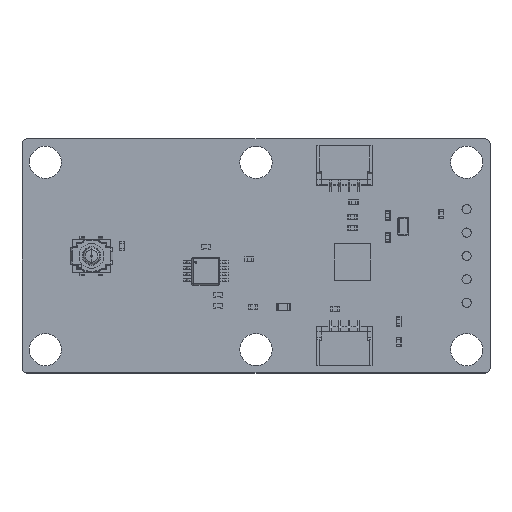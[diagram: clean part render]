
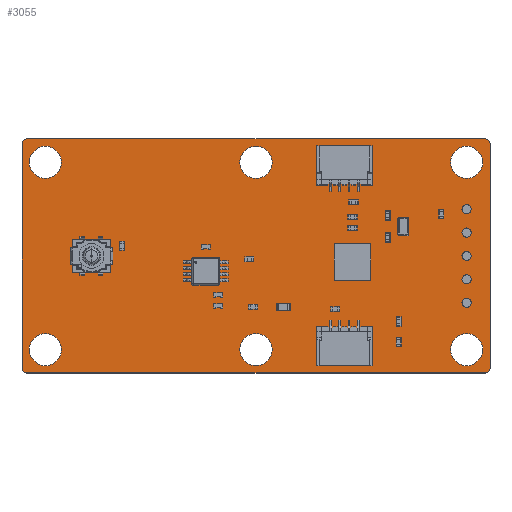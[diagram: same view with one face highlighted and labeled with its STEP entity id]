
A CAD part, top view. The second image highlights one B-rep face of the part: STEP entity #3055.
In plain terms, the highlighted planar face has unit normal (0, 0, 1).
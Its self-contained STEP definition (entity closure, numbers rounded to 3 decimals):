
#3055=ADVANCED_FACE('',(#7179,#7180,#7181,#7182,#7183,#7184,#7185,#7186,#7187,#7188,#7189,#7190),#7191,.T.);
#7179=FACE_BOUND('',#12662,.T.);
#7180=FACE_BOUND('',#12663,.T.);
#7181=FACE_BOUND('',#12664,.T.);
#7182=FACE_BOUND('',#12665,.T.);
#7183=FACE_BOUND('',#12666,.T.);
#7184=FACE_BOUND('',#12667,.T.);
#7185=FACE_BOUND('',#12668,.T.);
#7186=FACE_BOUND('',#12669,.T.);
#7187=FACE_BOUND('',#12670,.T.);
#7188=FACE_BOUND('',#12671,.T.);
#7189=FACE_BOUND('',#12672,.T.);
#7190=FACE_OUTER_BOUND('',#12673,.T.);
#7191=PLANE('',#12674);
#12662=EDGE_LOOP('',(#17763));
#12663=EDGE_LOOP('',(#17764));
#12664=EDGE_LOOP('',(#17765));
#12665=EDGE_LOOP('',(#17766));
#12666=EDGE_LOOP('',(#17767));
#12667=EDGE_LOOP('',(#17768));
#12668=EDGE_LOOP('',(#17769));
#12669=EDGE_LOOP('',(#17770));
#12670=EDGE_LOOP('',(#17771));
#12671=EDGE_LOOP('',(#17772));
#12672=EDGE_LOOP('',(#17773));
#12673=EDGE_LOOP('',(#17774,#17775,#17776,#17777,#17778,#17779,#17780,#17781));
#12674=AXIS2_PLACEMENT_3D('',#17782,#17783,#17784);
#17763=ORIENTED_EDGE('',*,*,#32748,.T.);
#17764=ORIENTED_EDGE('',*,*,#32751,.T.);
#17765=ORIENTED_EDGE('',*,*,#32754,.T.);
#17766=ORIENTED_EDGE('',*,*,#32757,.T.);
#17767=ORIENTED_EDGE('',*,*,#32760,.T.);
#17768=ORIENTED_EDGE('',*,*,#32762,.T.);
#17769=ORIENTED_EDGE('',*,*,#32763,.T.);
#17770=ORIENTED_EDGE('',*,*,#32764,.T.);
#17771=ORIENTED_EDGE('',*,*,#32765,.T.);
#17772=ORIENTED_EDGE('',*,*,#32766,.T.);
#17773=ORIENTED_EDGE('',*,*,#32767,.T.);
#17774=ORIENTED_EDGE('',*,*,#32768,.T.);
#17775=ORIENTED_EDGE('',*,*,#32769,.T.);
#17776=ORIENTED_EDGE('',*,*,#32770,.T.);
#17777=ORIENTED_EDGE('',*,*,#32771,.T.);
#17778=ORIENTED_EDGE('',*,*,#32772,.T.);
#17779=ORIENTED_EDGE('',*,*,#32773,.T.);
#17780=ORIENTED_EDGE('',*,*,#32774,.T.);
#17781=ORIENTED_EDGE('',*,*,#32775,.T.);
#17782=CARTESIAN_POINT('',(22.86,10.16,1.534));
#17783=DIRECTION('',(0.,0.,1.0));
#17784=DIRECTION('',(1.0,0.0,0.));
#32748=EDGE_CURVE('',#38651,#38651,#38652,.T.);
#32751=EDGE_CURVE('',#38656,#38656,#38657,.T.);
#32754=EDGE_CURVE('',#38661,#38661,#38662,.T.);
#32757=EDGE_CURVE('',#38666,#38666,#38667,.T.);
#32760=EDGE_CURVE('',#38671,#38671,#38672,.T.);
#32762=EDGE_CURVE('',#38674,#38674,#38675,.T.);
#32763=EDGE_CURVE('',#38676,#38676,#38677,.T.);
#32764=EDGE_CURVE('',#38678,#38678,#38679,.T.);
#32765=EDGE_CURVE('',#38680,#38680,#38681,.T.);
#32766=EDGE_CURVE('',#38682,#38682,#38683,.T.);
#32767=EDGE_CURVE('',#38684,#38684,#38685,.T.);
#32768=EDGE_CURVE('',#38686,#38687,#38688,.T.);
#32769=EDGE_CURVE('',#38687,#38689,#38690,.T.);
#32770=EDGE_CURVE('',#38689,#38691,#38692,.T.);
#32771=EDGE_CURVE('',#38691,#38693,#38694,.T.);
#32772=EDGE_CURVE('',#38693,#38695,#38696,.T.);
#32773=EDGE_CURVE('',#38695,#38697,#38698,.T.);
#32774=EDGE_CURVE('',#38697,#38699,#38700,.T.);
#32775=EDGE_CURVE('',#38699,#38686,#38701,.T.);
#38651=VERTEX_POINT('',#47284);
#38652=CIRCLE('',#47285,0.5);
#38656=VERTEX_POINT('',#47289);
#38657=CIRCLE('',#47290,0.5);
#38661=VERTEX_POINT('',#47294);
#38662=CIRCLE('',#47295,0.5);
#38666=VERTEX_POINT('',#47299);
#38667=CIRCLE('',#47300,0.5);
#38671=VERTEX_POINT('',#47304);
#38672=CIRCLE('',#47305,0.5);
#38674=VERTEX_POINT('',#47307);
#38675=CIRCLE('',#47308,1.75);
#38676=VERTEX_POINT('',#47309);
#38677=CIRCLE('',#47310,1.75);
#38678=VERTEX_POINT('',#47311);
#38679=CIRCLE('',#47312,1.75);
#38680=VERTEX_POINT('',#47313);
#38681=CIRCLE('',#47314,1.75);
#38682=VERTEX_POINT('',#47315);
#38683=CIRCLE('',#47316,1.75);
#38684=VERTEX_POINT('',#47317);
#38685=CIRCLE('',#47318,1.75);
#38686=VERTEX_POINT('',#47319);
#38687=VERTEX_POINT('',#47320);
#38688=LINE('',#47321,#47322);
#38689=VERTEX_POINT('',#47323);
#38690=CIRCLE('',#47324,0.5);
#38691=VERTEX_POINT('',#47325);
#38692=LINE('',#47326,#47327);
#38693=VERTEX_POINT('',#47328);
#38694=CIRCLE('',#47329,0.5);
#38695=VERTEX_POINT('',#47330);
#38696=LINE('',#47331,#47332);
#38697=VERTEX_POINT('',#47333);
#38698=CIRCLE('',#47334,0.5);
#38699=VERTEX_POINT('',#47335);
#38700=LINE('',#47336,#47337);
#38701=CIRCLE('',#47338,0.5);
#47284=CARTESIAN_POINT('',(45.22,15.24,1.534));
#47285=AXIS2_PLACEMENT_3D('',#59343,#59344,#59345);
#47289=CARTESIAN_POINT('',(45.22,12.7,1.534));
#47290=AXIS2_PLACEMENT_3D('',#59349,#59350,#59351);
#47294=CARTESIAN_POINT('',(45.22,10.16,1.534));
#47295=AXIS2_PLACEMENT_3D('',#59355,#59356,#59357);
#47299=CARTESIAN_POINT('',(45.22,7.62,1.534));
#47300=AXIS2_PLACEMENT_3D('',#59361,#59362,#59363);
#47304=CARTESIAN_POINT('',(45.22,5.08,1.534));
#47305=AXIS2_PLACEMENT_3D('',#59367,#59368,#59369);
#47307=CARTESIAN_POINT('',(43.97,20.32,1.534));
#47308=AXIS2_PLACEMENT_3D('',#59370,#59371,#59372);
#47309=CARTESIAN_POINT('',(43.97,0.,1.534));
#47310=AXIS2_PLACEMENT_3D('',#59373,#59374,#59375);
#47311=CARTESIAN_POINT('',(21.11,20.32,1.534));
#47312=AXIS2_PLACEMENT_3D('',#59376,#59377,#59378);
#47313=CARTESIAN_POINT('',(21.11,0.,1.534));
#47314=AXIS2_PLACEMENT_3D('',#59379,#59380,#59381);
#47315=CARTESIAN_POINT('',(-1.75,0.,1.534));
#47316=AXIS2_PLACEMENT_3D('',#59382,#59383,#59384);
#47317=CARTESIAN_POINT('',(-1.75,20.32,1.534));
#47318=AXIS2_PLACEMENT_3D('',#59385,#59386,#59387);
#47319=CARTESIAN_POINT('',(-2.54,22.36,1.534));
#47320=CARTESIAN_POINT('',(-2.54,-2.04,1.534));
#47321=CARTESIAN_POINT('',(-2.54,10.16,1.534));
#47322=VECTOR('',#59388,1.0);
#47323=CARTESIAN_POINT('',(-2.04,-2.54,1.534));
#47324=AXIS2_PLACEMENT_3D('',#59389,#59390,#59391);
#47325=CARTESIAN_POINT('',(47.76,-2.54,1.534));
#47326=CARTESIAN_POINT('',(22.86,-2.54,1.534));
#47327=VECTOR('',#59392,1.0);
#47328=CARTESIAN_POINT('',(48.26,-2.04,1.534));
#47329=AXIS2_PLACEMENT_3D('',#59393,#59394,#59395);
#47330=CARTESIAN_POINT('',(48.26,22.36,1.534));
#47331=CARTESIAN_POINT('',(48.26,10.16,1.534));
#47332=VECTOR('',#59396,1.0);
#47333=CARTESIAN_POINT('',(47.76,22.86,1.534));
#47334=AXIS2_PLACEMENT_3D('',#59397,#59398,#59399);
#47335=CARTESIAN_POINT('',(-2.04,22.86,1.534));
#47336=CARTESIAN_POINT('',(22.86,22.86,1.534));
#47337=VECTOR('',#59400,1.0);
#47338=AXIS2_PLACEMENT_3D('',#59401,#59402,#59403);
#59343=CARTESIAN_POINT('',(45.72,15.24,1.534));
#59344=DIRECTION('',(0.,0.,-1.0));
#59345=DIRECTION('',(1.0,0.,0.));
#59349=CARTESIAN_POINT('',(45.72,12.7,1.534));
#59350=DIRECTION('',(0.,0.,-1.0));
#59351=DIRECTION('',(1.0,0.,0.));
#59355=CARTESIAN_POINT('',(45.72,10.16,1.534));
#59356=DIRECTION('',(0.,0.,-1.0));
#59357=DIRECTION('',(1.0,0.,0.));
#59361=CARTESIAN_POINT('',(45.72,7.62,1.534));
#59362=DIRECTION('',(0.,0.,-1.0));
#59363=DIRECTION('',(1.0,0.,0.));
#59367=CARTESIAN_POINT('',(45.72,5.08,1.534));
#59368=DIRECTION('',(0.,0.,-1.0));
#59369=DIRECTION('',(1.0,0.,0.));
#59370=CARTESIAN_POINT('',(45.72,20.32,1.534));
#59371=DIRECTION('',(0.,0.,-1.0));
#59372=DIRECTION('',(1.0,0.,0.));
#59373=CARTESIAN_POINT('',(45.72,0.0,1.534));
#59374=DIRECTION('',(0.,0.,-1.0));
#59375=DIRECTION('',(1.0,0.,0.));
#59376=CARTESIAN_POINT('',(22.86,20.32,1.534));
#59377=DIRECTION('',(0.,0.,-1.0));
#59378=DIRECTION('',(1.0,0.,0.));
#59379=CARTESIAN_POINT('',(22.86,0.0,1.534));
#59380=DIRECTION('',(0.,0.,-1.0));
#59381=DIRECTION('',(1.0,0.,0.));
#59382=CARTESIAN_POINT('',(0.0,0.0,1.534));
#59383=DIRECTION('',(0.,0.,-1.0));
#59384=DIRECTION('',(1.0,0.,0.));
#59385=CARTESIAN_POINT('',(0.0,20.32,1.534));
#59386=DIRECTION('',(0.,0.,-1.0));
#59387=DIRECTION('',(1.0,0.,0.));
#59388=DIRECTION('',(0.0,-1.0,0.0));
#59389=CARTESIAN_POINT('',(-2.04,-2.04,1.534));
#59390=DIRECTION('',(0.0,0.0,1.0));
#59391=DIRECTION('',(-1.0,0.,0.0));
#59392=DIRECTION('',(1.0,0.0,0.0));
#59393=CARTESIAN_POINT('',(47.76,-2.04,1.534));
#59394=DIRECTION('',(0.0,0.0,1.0));
#59395=DIRECTION('',(0.0,-1.0,0.0));
#59396=DIRECTION('',(0.0,1.0,0.0));
#59397=CARTESIAN_POINT('',(47.76,22.36,1.534));
#59398=DIRECTION('',(0.0,0.0,1.0));
#59399=DIRECTION('',(1.0,0.0,0.0));
#59400=DIRECTION('',(-1.0,0.0,0.0));
#59401=CARTESIAN_POINT('',(-2.04,22.36,1.534));
#59402=DIRECTION('',(0.0,-0.0,1.0));
#59403=DIRECTION('',(0.,1.0,0.0));
